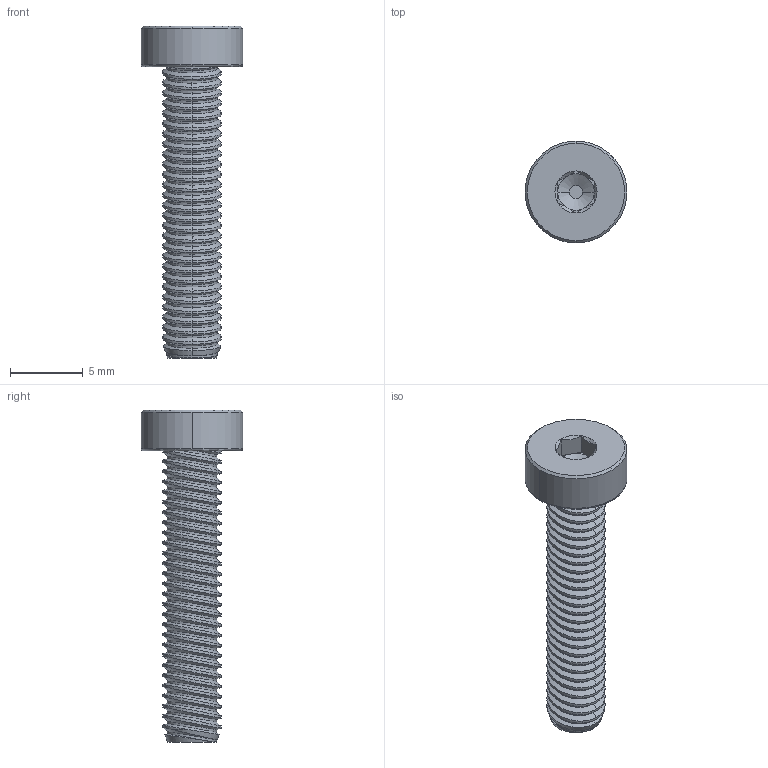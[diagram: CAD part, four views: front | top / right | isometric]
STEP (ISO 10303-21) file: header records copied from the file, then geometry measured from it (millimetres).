
FILE_DESCRIPTION (( 'STEP AP214' ), '1' );
FILE_NAME ('21.1383 M4x20 SHCS.STEP', '2012-07-24T17:35:37', ( 'Owner' ), ( '' ), 'SwSTEP 2.0', 'SolidWorks 2008', '' );
FILE_SCHEMA (( 'AUTOMOTIVE_DESIGN' ));
Length unit declared in the file: millimetre
Products named in the file (1): 21.1383 M4x20 SHCS
Bounding box: 7 x 7 x 22.8 mm (x, y, z)
Volume: 314.4 mm3; surface area: 488.2 mm2
Topology: 1 solids, 1 shells, 269 faces, 551 edges, 286 vertices
Faces by surface type: cone 133, cylinder 118, plane 16, bspline 2
Entity records: 9956 total; most frequent: CARTESIAN_POINT 4599, ORIENTED_EDGE 1102, DIRECTION 1095, EDGE_CURVE 551, AXIS2_PLACEMENT_3D 420, VERTEX_POINT 286, EDGE_LOOP 271, ADVANCED_FACE 269
